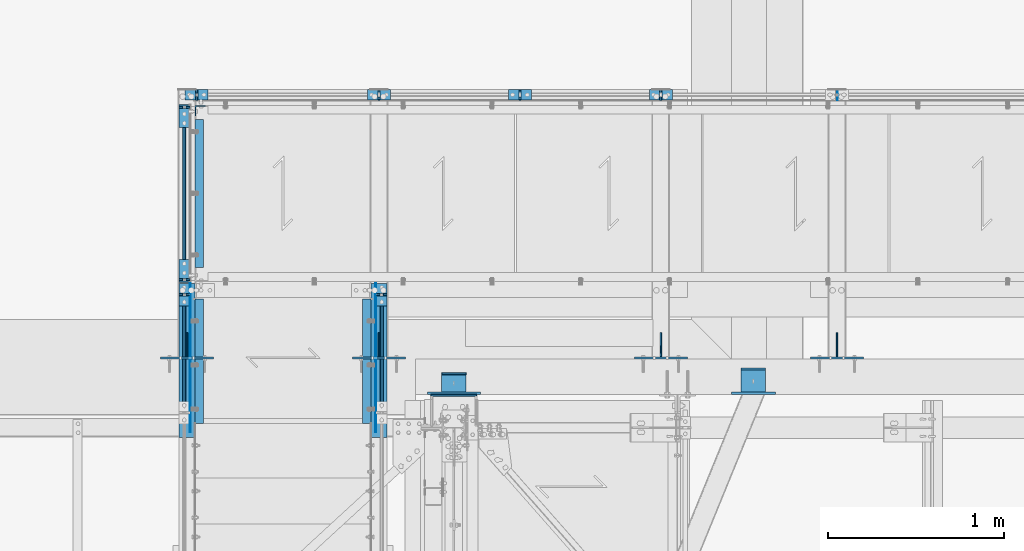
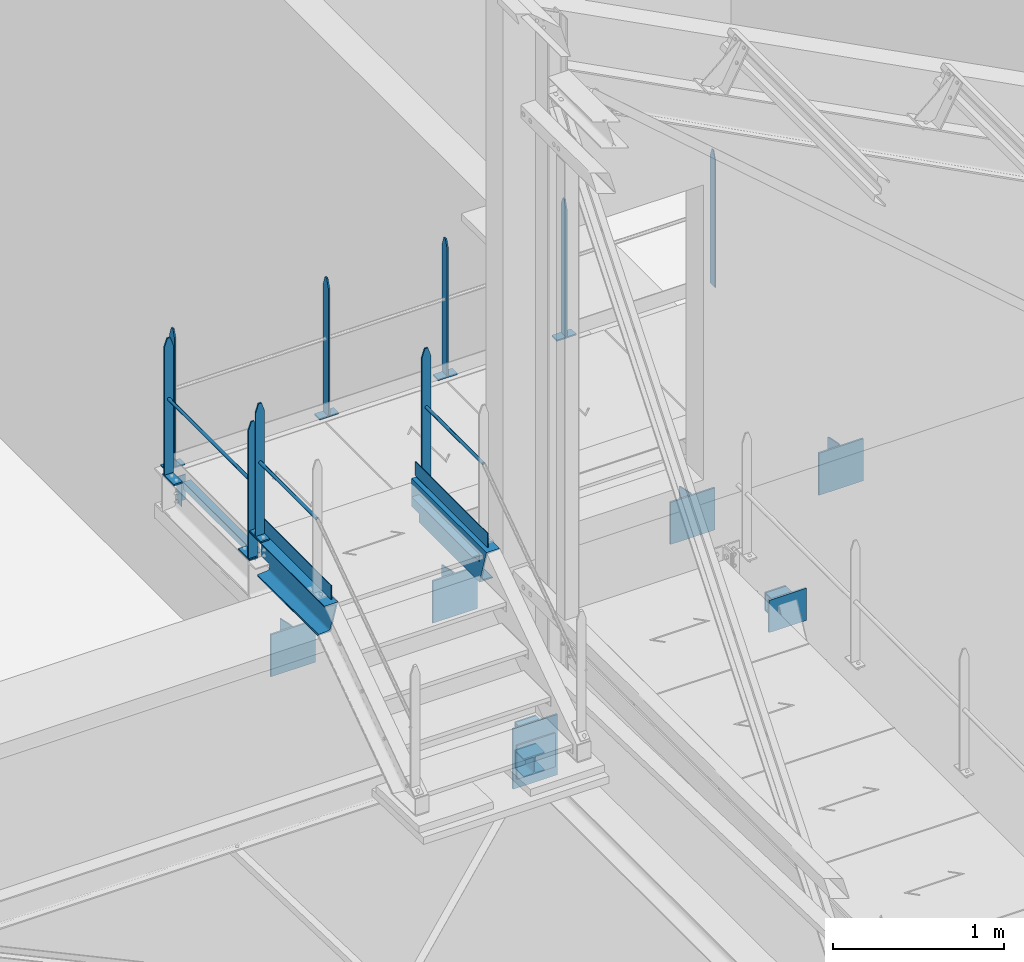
# One storey, part 96 of 362: 45 beams, 18 elements without a shape of their own.
"""IFC2X3 building model written with IfcOpenShell, lengths in millimetres."""

from ifc_helpers import new_model, si_unit, frame, origin_with_axes, origin_2d_with_axis, place, context, subcontext, project, spatial, polyline, rectangle, hollow_circle, i_section, l_section, u_section, outline, extrude, boolean, clip, halfspace, material, type_object, element, aggregate, save


model = new_model("IFC2X3")

# Units and contexts
model_context = context("Model", 3, precision=1e-05, world=origin_with_axes())
body_context = subcontext(model_context, "Body", "Model", "MODEL_VIEW")
ifc_project = project(units=[si_unit("LENGTHUNIT", "METRE", prefix="MILLI"), si_unit("AREAUNIT", "SQUARE_METRE"), si_unit("VOLUMEUNIT", "CUBIC_METRE"), si_unit("MASSUNIT", "GRAM", prefix="KILO"), si_unit("TIMEUNIT", "SECOND"), si_unit("PLANEANGLEUNIT", "RADIAN"), si_unit("SOLIDANGLEUNIT", "STERADIAN"), si_unit("THERMODYNAMICTEMPERATUREUNIT", "DEGREE_CELSIUS"), si_unit("LUMINOUSINTENSITYUNIT", "LUMEN")], contexts=[model_context])

# Site, building, storey
site_placement = place(None, origin_with_axes())
site = spatial("IfcSite", under=ifc_project, at=site_placement, Name="Undefined", CompositionType="ELEMENT")
building_placement = place(site_placement, origin_with_axes())
building = spatial("IfcBuilding", under=site, at=building_placement, Name="Undefined", CompositionType="ELEMENT")
storey_placement = place(building_placement, origin_with_axes())
storey = spatial("IfcBuildingStorey", under=building, at=storey_placement, Name="Undefined", CompositionType="ELEMENT", Elevation=0.0)

# Assembly, beams
assembly_1_placement = place(storey_placement, origin_with_axes())
assembly_1 = element("IfcElementAssembly", 1, at=assembly_1_placement, inside=storey, Name="MAIN COURANTE", AssemblyPlace="NOTDEFINED", PredefinedType="NOTDEFINED")
ifc_material_1 = material(Name="Undefined/S235-E24")
beam_type_1 = type_object("IfcBeamType", Name="PL10*60", PredefinedType="NOTDEFINED")
beam_1_placement = place(assembly_1_placement, frame((13119.9961849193, 17089.9938659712, 8705.00000001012), z_axis=(0.0, 1.0, 0.0), x_axis=(-1.0, 0.0, 0.0)))
beam_1 = element("IfcBeam", 2, at=beam_1_placement, type_object=beam_type_1, material=ifc_material_1, Name="PLATINE", ObjectType="PL10*60", context=body_context, shape_type="SweptSolid", body=[
    extrude(rectangle(XDim=10.0, YDim=60.0, at=origin_2d_with_axis()), frame((130.0, 0.0, 0.0), z_axis=(-1.0, 0.0, 0.0), x_axis=(0.0, -1.0, 0.0)), (0.0, 0.0, 1.0), 130.0),
])
beam_2_placement = place(assembly_1_placement, frame((13054.9961849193, 17089.9938659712, 9677.59999847), z_axis=(0.0, -1.0, 0.0), x_axis=(0.0, 0.0, -1.0)))
beam_2 = element("IfcBeam", 3, at=beam_2_placement, type_object=beam_type_1, material=ifc_material_1, Name="MONTANT", ObjectType="PL10*60", context=body_context, shape_type="Clipping", body=[
    clip(clip(extrude(rectangle(XDim=10.0, YDim=60.0, at=origin_2d_with_axis()), frame((967.59999845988, 0.0, 0.0), z_axis=(-1.0, 0.0, 0.0), x_axis=(0.0, -1.0, 0.0)), (0.0, 0.0, 1.0), 967.6), halfspace(frame((-120.0, 5.0, -30.0), z_axis=(-0.316227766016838, 0.0, 0.948683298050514), x_axis=(0.948683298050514, 0.0, 0.316227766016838)), False)), halfspace(frame((60.0, 5.0, -30.0), z_axis=(-0.316227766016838, 0.0, -0.948683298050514), x_axis=(-0.948683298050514, 0.0, 0.316227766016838)), False)),
])
beam_3_placement = place(assembly_1_placement, frame((13919.9961849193, 17089.9938659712, 8705.00000001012), z_axis=(0.0, 1.0, 0.0), x_axis=(-1.0, 0.0, 0.0)))
beam_3 = element("IfcBeam", 4, at=beam_3_placement, type_object=beam_type_1, material=ifc_material_1, Name="PLATINE", ObjectType="PL10*60", context=body_context, shape_type="SweptSolid", body=[
    extrude(rectangle(XDim=10.0, YDim=60.0, at=origin_2d_with_axis()), frame((130.0, 0.0, 0.0), z_axis=(-1.0, 0.0, 0.0), x_axis=(0.0, -1.0, 0.0)), (0.0, 0.0, 1.0), 130.0),
])
beam_4_placement = place(assembly_1_placement, frame((11285.0061849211, 17089.9938659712, 8705.00001258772), z_axis=(0.0, 1.0, 0.0), x_axis=(-1.0, 0.0, 0.0)))
beam_4 = element("IfcBeam", 5, at=beam_4_placement, type_object=beam_type_1, material=ifc_material_1, Name="PLATINE", ObjectType="PL10*60", context=body_context, shape_type="SweptSolid", body=[
    extrude(rectangle(XDim=10.0, YDim=60.0, at=origin_2d_with_axis()), frame((130.0, 0.0, 0.0), z_axis=(-1.0, 0.0, 0.0), x_axis=(0.0, -1.0, 0.0)), (0.0, 0.0, 1.0), 130.0),
])
beam_5_placement = place(assembly_1_placement, frame((11220.0061849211, 17089.9938659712, 9677.6000110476), z_axis=(0.0, -1.0, 0.0), x_axis=(0.0, 0.0, -1.0)))
beam_5 = element("IfcBeam", 6, at=beam_5_placement, type_object=beam_type_1, material=ifc_material_1, Name="MONTANT", ObjectType="PL10*60", context=body_context, shape_type="Clipping", body=[
    clip(clip(extrude(rectangle(XDim=10.0, YDim=60.0, at=origin_2d_with_axis()), frame((967.59999845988, 0.0, 0.0), z_axis=(-1.0, 0.0, 0.0), x_axis=(0.0, -1.0, 0.0)), (0.0, 0.0, 1.0), 967.6), halfspace(frame((-120.0, 5.0, -30.0), z_axis=(-0.316227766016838, 0.0, 0.948683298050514), x_axis=(0.948683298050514, 0.0, 0.316227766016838)), False)), halfspace(frame((60.0, 5.0, -30.0), z_axis=(-0.316227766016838, 0.0, -0.948683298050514), x_axis=(-0.948683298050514, 0.0, 0.316227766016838)), False)),
])
beam_6_placement = place(assembly_1_placement, frame((12319.9961849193, 17089.9938659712, 8705.00000001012), z_axis=(0.0, 1.0, 0.0), x_axis=(-1.0, 0.0, 0.0)))
beam_6 = element("IfcBeam", 7, at=beam_6_placement, type_object=beam_type_1, material=ifc_material_1, Name="PLATINE", ObjectType="PL10*60", context=body_context, shape_type="SweptSolid", body=[
    extrude(rectangle(XDim=10.0, YDim=60.0, at=origin_2d_with_axis()), frame((130.0, 0.0, 0.0), z_axis=(-1.0, 0.0, 0.0), x_axis=(0.0, -1.0, 0.0)), (0.0, 0.0, 1.0), 130.0),
])

assembly_2_placement = place(storey_placement, origin_with_axes())
assembly_2 = element("IfcElementAssembly", 8, at=assembly_2_placement, inside=storey, Name="MAIN COURANTE", AssemblyPlace="NOTDEFINED", PredefinedType="NOTDEFINED")
beam_7_placement = place(assembly_2_placement, frame((11149.9863365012, 16155.0036560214, 8705.00000001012), z_axis=(-1.0, 0.0, 0.0), x_axis=(0.0, -1.0, 0.0)))
beam_7 = element("IfcBeam", 9, at=beam_7_placement, type_object=beam_type_1, material=ifc_material_1, Name="PLATINE", ObjectType="PL10*60", context=body_context, shape_type="SweptSolid", body=[
    extrude(rectangle(XDim=10.0, YDim=60.0, at=origin_2d_with_axis()), frame((130.0, 0.0, 0.0), z_axis=(-1.0, 0.0, 0.0), x_axis=(0.0, -1.0, 0.0)), (0.0, 0.0, 1.0), 130.0),
])
beam_8_placement = place(assembly_2_placement, frame((11149.9862112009, 16040.0036560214, 9677.59999848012), z_axis=(-0.99999999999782, -2.08799999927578e-06, 0.0), x_axis=(0.0, 0.0, -1.0)))
beam_8 = element("IfcBeam", 10, at=beam_8_placement, type_object=beam_type_1, material=ifc_material_1, Name="MONTANT", ObjectType="PL10*60", context=body_context, shape_type="Clipping", body=[
    clip(clip(extrude(rectangle(XDim=10.0, YDim=60.0, at=origin_2d_with_axis()), frame((967.59999845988, 0.0, 0.0), z_axis=(-1.0, 0.0, 0.0), x_axis=(0.0, -1.0, 0.0)), (0.0, 0.0, 1.0), 967.6), halfspace(frame((-119.999937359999, -4.99999999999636, -30.0), z_axis=(-0.316227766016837, -1.98085072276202e-06, 0.948683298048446), x_axis=(-6.26399999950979e-06, 0.999999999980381, -3.63797880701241e-15)), False)), halfspace(frame((60.0, -5.0, -30.0), z_axis=(-0.316227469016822, 1.98084886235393e-06, -0.948683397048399), x_axis=(6.26399999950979e-06, 0.999999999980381, -3.63797880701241e-15)), False)),
])
beam_9_placement = place(assembly_2_placement, frame((11149.9863365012, 17034.9977309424, 8705.00000001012), z_axis=(-1.0, 0.0, 0.0), x_axis=(0.0, -1.0, 0.0)))
beam_9 = element("IfcBeam", 11, at=beam_9_placement, type_object=beam_type_1, material=ifc_material_1, Name="PLATINE", ObjectType="PL10*60", context=body_context, shape_type="SweptSolid", body=[
    extrude(rectangle(XDim=10.0, YDim=60.0, at=origin_2d_with_axis()), frame((130.0, 0.0, 0.0), z_axis=(-1.0, 0.0, 0.0), x_axis=(0.0, -1.0, 0.0)), (0.0, 0.0, 1.0), 130.0),
])
beam_10_placement = place(assembly_2_placement, frame((11149.9862112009, 17019.9977309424, 9677.59999848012), z_axis=(-0.99999999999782, -2.08799999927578e-06, 0.0), x_axis=(0.0, 0.0, -1.0)))
beam_10 = element("IfcBeam", 12, at=beam_10_placement, type_object=beam_type_1, material=ifc_material_1, Name="MONTANT", ObjectType="PL10*60", context=body_context, shape_type="Clipping", body=[
    clip(clip(extrude(rectangle(XDim=10.0, YDim=60.0, at=origin_2d_with_axis()), frame((967.59999845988, 0.0, 0.0), z_axis=(-1.0, 0.0, 0.0), x_axis=(0.0, -1.0, 0.0)), (0.0, 0.0, 1.0), 967.6), halfspace(frame((-119.999937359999, -4.99999999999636, -30.0), z_axis=(-0.316227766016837, -1.98085072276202e-06, 0.948683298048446), x_axis=(-6.26399999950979e-06, 0.999999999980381, -3.63797880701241e-15)), False)), halfspace(frame((60.0, -5.0, -30.0), z_axis=(-0.316227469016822, 1.98084886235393e-06, -0.948683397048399), x_axis=(6.26399999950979e-06, 0.999999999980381, -3.63797880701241e-15)), False)),
])

# Beam
beam_11_placement = place(assembly_1_placement, frame((13854.9961849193, 17089.9938659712, 9677.59999847), z_axis=(0.0, -1.0, 0.0), x_axis=(0.0, 0.0, -1.0)))
beam_11 = element("IfcBeam", 13, at=beam_11_placement, type_object=beam_type_1, material=ifc_material_1, Name="MONTANT", ObjectType="PL10*60", context=body_context, shape_type="Clipping", body=[
    clip(clip(extrude(rectangle(XDim=10.0, YDim=60.0, at=origin_2d_with_axis()), frame((967.59999845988, 0.0, 0.0), z_axis=(-1.0, 0.0, 0.0), x_axis=(0.0, -1.0, 0.0)), (0.0, 0.0, 1.0), 967.6), halfspace(frame((-120.0, 5.0, -30.0), z_axis=(-0.316227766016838, 0.0, 0.948683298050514), x_axis=(0.948683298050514, 0.0, 0.316227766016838)), False)), halfspace(frame((60.0, 5.0, -30.0), z_axis=(-0.316227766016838, 0.0, -0.948683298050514), x_axis=(-0.948683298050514, 0.0, 0.316227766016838)), False)),
])

beam_12_placement = place(assembly_1_placement, frame((12254.9961849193, 17089.9938659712, 9677.59999847), z_axis=(0.0, -1.0, 0.0), x_axis=(0.0, 0.0, -1.0)))
beam_12 = element("IfcBeam", 14, at=beam_12_placement, type_object=beam_type_1, material=ifc_material_1, Name="MONTANT", ObjectType="PL10*60", context=body_context, shape_type="Clipping", body=[
    clip(clip(extrude(rectangle(XDim=10.0, YDim=60.0, at=origin_2d_with_axis()), frame((967.59999845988, 0.0, 0.0), z_axis=(-1.0, 0.0, 0.0), x_axis=(0.0, -1.0, 0.0)), (0.0, 0.0, 1.0), 967.6), halfspace(frame((-120.0, 5.0, -30.0), z_axis=(-0.316227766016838, 0.0, 0.948683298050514), x_axis=(0.948683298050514, 0.0, 0.316227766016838)), False)), halfspace(frame((60.0, 5.0, -30.0), z_axis=(-0.316227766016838, 0.0, -0.948683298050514), x_axis=(-0.948683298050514, 0.0, 0.316227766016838)), False)),
])

aggregate(assembly_1, [beam_1, beam_2, beam_3, beam_4, beam_5, beam_6, beam_11, beam_12])

# Assembly, beams
assembly_3_placement = place(storey_placement, origin_with_axes())
assembly_3 = element("IfcElementAssembly", 15, at=assembly_3_placement, inside=storey, Name="MAIN COURANTE", AssemblyPlace="NOTDEFINED", PredefinedType="NOTDEFINED")
beam_13_placement = place(assembly_3_placement, frame((11149.9863365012, 16019.9996531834, 8915.0), z_axis=(-1.0, 0.0, 0.0), x_axis=(0.0, -1.0, 0.0)))
beam_13 = element("IfcBeam", 16, at=beam_13_placement, type_object=beam_type_1, material=ifc_material_1, Name="PLATINE", ObjectType="PL10*60", context=body_context, shape_type="SweptSolid", body=[
    extrude(rectangle(XDim=10.0, YDim=60.0, at=origin_2d_with_axis()), frame((130.0, 0.0, 0.0), z_axis=(-1.0, 0.0, 0.0), x_axis=(0.0, -1.0, 0.0)), (0.0, 0.0, 1.0), 130.0),
])
beam_14_placement = place(assembly_3_placement, frame((11149.9862112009, 15954.9996531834, 9857.59999847), z_axis=(-0.99999999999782, -2.08799999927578e-06, 0.0), x_axis=(0.0, 0.0, -1.0)))
beam_14 = element("IfcBeam", 17, at=beam_14_placement, type_object=beam_type_1, material=ifc_material_1, Name="MONTANT", ObjectType="PL10*60", context=body_context, shape_type="Clipping", body=[
    clip(clip(extrude(rectangle(XDim=10.0, YDim=60.0, at=origin_2d_with_axis()), frame((937.599998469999, 0.0, 0.0), z_axis=(-1.0, 0.0, 0.0), x_axis=(0.0, -1.0, 0.0)), (0.0, 0.0, 1.0), 937.6), halfspace(frame((-119.999937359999, -4.99999999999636, -30.0), z_axis=(-0.316227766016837, -1.98085072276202e-06, 0.948683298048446), x_axis=(-6.26399999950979e-06, 0.999999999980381, -3.63797880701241e-15)), False)), halfspace(frame((60.0, -5.0, -30.0), z_axis=(-0.316227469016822, 1.98084886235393e-06, -0.948683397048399), x_axis=(6.26399999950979e-06, 0.999999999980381, -3.63797880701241e-15)), False)),
])

assembly_4_placement = place(storey_placement, origin_with_axes())
assembly_4 = element("IfcElementAssembly", 18, at=assembly_4_placement, inside=storey, Name="MAIN COURANTE", AssemblyPlace="NOTDEFINED", PredefinedType="NOTDEFINED")
beam_15_placement = place(assembly_4_placement, frame((12269.9936634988, 16019.9996531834, 8915.0), z_axis=(1.0, 0.0, 0.0), x_axis=(0.0, -1.0, 0.0)))
beam_15 = element("IfcBeam", 19, at=beam_15_placement, type_object=beam_type_1, material=ifc_material_1, Name="PLATINE", ObjectType="PL10*60", context=body_context, shape_type="SweptSolid", body=[
    extrude(rectangle(XDim=10.0, YDim=60.0, at=origin_2d_with_axis()), frame((130.0, 0.0, 0.0), z_axis=(-1.0, 0.0, 0.0), x_axis=(0.0, -1.0, 0.0)), (0.0, 0.0, 1.0), 130.0),
])
beam_16_placement = place(assembly_4_placement, frame((12269.9937887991, 15954.9996531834, 9857.59999847), z_axis=(0.999999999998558, -1.69800000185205e-06, 0.0), x_axis=(0.0, 0.0, -1.0)))
beam_16 = element("IfcBeam", 20, at=beam_16_placement, type_object=beam_type_1, material=ifc_material_1, Name="MONTANT", ObjectType="PL10*60", context=body_context, shape_type="Clipping", body=[
    clip(clip(extrude(rectangle(XDim=10.0, YDim=60.0, at=origin_2d_with_axis()), frame((937.599998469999, 0.0, 0.0), z_axis=(-1.0, 0.0, 0.0), x_axis=(0.0, -1.0, 0.0)), (0.0, 0.0, 1.0), 937.6), halfspace(frame((-119.999937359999, 4.99999999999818, -30.0), z_axis=(-0.316227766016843, 1.98085072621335e-06, 0.948683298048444), x_axis=(0.948683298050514, 0.0, 0.316227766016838)), False)), halfspace(frame((60.0, 5.0, -30.0), z_axis=(-0.316227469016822, -1.98084886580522e-06, -0.948683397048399), x_axis=(-0.948683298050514, 0.0, 0.316227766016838)), False)),
])
beam_type_2 = type_object("IfcBeamType", Name="TUBE-21.3*2", PredefinedType="NOTDEFINED")
beam_17_placement = place(assembly_4_placement, frame((12269.9936634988, 15290.0038659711, 9438.8), z_axis=(0.999999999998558, -1.69800000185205e-06, 0.0), x_axis=(1.69800000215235e-06, 0.999999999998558, 0.0)))
beam_17 = element("IfcBeam", 21, at=beam_17_placement, type_object=beam_type_2, material=ifc_material_1, Name="LISSE", ObjectType="TUBE-21.3*2", context=body_context, shape_type="SweptSolid", body=[
    extrude(hollow_circle(Radius=10.64999962, WallThickness=2.0, at=origin_2d_with_axis()), frame((659.995802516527, 1.81898940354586e-12, -1.3975954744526e-19), z_axis=(-1.0, 0.0, 0.0), x_axis=(0.0, -1.0, 0.0)), (0.0, 0.0, 1.0), 660.0),
])

# Beam
beam_18_placement = place(assembly_2_placement, frame((11149.9863365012, 16045.0036560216, 9243.80000001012), z_axis=(-0.99999999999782, -2.08799999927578e-06, 0.0), x_axis=(-1.15500000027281e-06, 0.999999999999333, 0.0)))
beam_18 = element("IfcBeam", 22, at=beam_18_placement, type_object=beam_type_2, material=ifc_material_1, Name="LISSE", ObjectType="TUBE-21.3*2", context=body_context, shape_type="SweptSolid", body=[
    extrude(hollow_circle(Radius=10.64999962, WallThickness=2.0, at=origin_2d_with_axis()), frame((969.994074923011, -1.81898940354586e-12, 0.0), z_axis=(-1.0, 0.0, 0.0), x_axis=(0.0, -1.0, 0.0)), (0.0, 0.0, 1.0), 969.99),
])

aggregate(assembly_2, [beam_7, beam_8, beam_18, beam_9, beam_10])

beam_19_placement = place(assembly_3_placement, frame((11149.9863365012, 15290.0038659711, 9438.8), z_axis=(-0.99999999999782, -2.08799999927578e-06, 0.0), x_axis=(-1.15500000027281e-06, 0.999999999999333, 0.0)))
beam_19 = element("IfcBeam", 23, at=beam_19_placement, type_object=beam_type_2, material=ifc_material_1, Name="LISSE", ObjectType="TUBE-21.3*2", context=body_context, shape_type="SweptSolid", body=[
    extrude(hollow_circle(Radius=10.64999962, WallThickness=2.0, at=origin_2d_with_axis()), frame((659.996492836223, -1.81898940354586e-12, 0.0), z_axis=(-1.0, 0.0, 0.0), x_axis=(0.0, -1.0, 0.0)), (0.0, 0.0, 1.0), 660.0),
])

# Assembly, beam
assembly_5_placement = place(storey_placement, origin_with_axes())
assembly_5 = element("IfcElementAssembly", 24, at=assembly_5_placement, inside=storey, Name="CONSOLE", AssemblyPlace="NOTDEFINED", PredefinedType="NOTDEFINED")
beam_type_3 = type_object("IfcBeamType", Name="TOLE8*138", PredefinedType="NOTDEFINED")
beam_20_placement = place(assembly_5_placement, frame((12255.0007605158, 15622.0, 8175.0), z_axis=(-1.0, 0.0, 0.0), x_axis=(0.0, -1.0, 0.0)))
beam_20 = element("IfcBeam", 25, at=beam_20_placement, type_object=beam_type_3, material=ifc_material_1, Name="RAIDISSEUR CONSOLE", ObjectType="TOLE8*138", context=body_context, shape_type="SweptSolid", body=[
    extrude(outline(polyline([(0.0, 0.0), (19.9999999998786, -3.63797880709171e-12), (20.0, 300.0), (0.0, 300.0), (-118.0, 275.0), (-118.0, 155.0), (0.0, 0.0)])), frame((0.0, 0.0, -4.0), z_axis=(0.0, 0.0, 1.0), x_axis=(1.0, 0.0, 0.0)), (0.0, 0.0, 1.0), 8.0),
])

assembly_6_placement = place(storey_placement, origin_with_axes())
assembly_6 = element("IfcElementAssembly", 26, at=assembly_6_placement, inside=storey, Name="CONSOLE", AssemblyPlace="NOTDEFINED", PredefinedType="NOTDEFINED")
beam_21_placement = place(assembly_6_placement, frame((14855.0007605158, 15622.0, 8175.0), z_axis=(-1.0, 0.0, 0.0), x_axis=(0.0, -1.0, 0.0)))
beam_21 = element("IfcBeam", 27, at=beam_21_placement, type_object=beam_type_3, material=ifc_material_1, Name="RAIDISSEUR CONSOLE", ObjectType="TOLE8*138", context=body_context, shape_type="SweptSolid", body=[
    extrude(outline(polyline([(0.0, 0.0), (19.9999999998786, -3.63797880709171e-12), (20.0, 300.0), (0.0, 300.0), (-118.0, 275.0), (-118.0, 155.0), (0.0, 0.0)])), frame((0.0, 0.0, -4.0), z_axis=(0.0, 0.0, 1.0), x_axis=(1.0, 0.0, 0.0)), (0.0, 0.0, 1.0), 8.0),
])

assembly_7_placement = place(storey_placement, origin_with_axes())
assembly_7 = element("IfcElementAssembly", 28, at=assembly_7_placement, inside=storey, Name="CONSOLE", AssemblyPlace="NOTDEFINED", PredefinedType="NOTDEFINED")
beam_22_placement = place(assembly_7_placement, frame((13855.0007605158, 15622.0, 8175.0), z_axis=(-1.0, 0.0, 0.0), x_axis=(0.0, -1.0, 0.0)))
beam_22 = element("IfcBeam", 29, at=beam_22_placement, type_object=beam_type_3, material=ifc_material_1, Name="RAIDISSEUR CONSOLE", ObjectType="TOLE8*138", context=body_context, shape_type="SweptSolid", body=[
    extrude(outline(polyline([(0.0, 0.0), (19.9999999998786, -3.63797880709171e-12), (20.0, 300.0), (0.0, 300.0), (-118.0, 275.0), (-118.0, 155.0), (0.0, 0.0)])), frame((0.0, 0.0, -4.0), z_axis=(0.0, 0.0, 1.0), x_axis=(1.0, 0.0, 0.0)), (0.0, 0.0, 1.0), 8.0),
])

assembly_8_placement = place(storey_placement, origin_with_axes())
assembly_8 = element("IfcElementAssembly", 30, at=assembly_8_placement, inside=storey, Name="CONSOLE", AssemblyPlace="NOTDEFINED", PredefinedType="NOTDEFINED")
beam_23_placement = place(assembly_8_placement, frame((11165.0007605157, 15622.0, 8175.0), z_axis=(-1.0, 0.0, 0.0), x_axis=(0.0, -1.0, 0.0)))
beam_23 = element("IfcBeam", 31, at=beam_23_placement, type_object=beam_type_3, material=ifc_material_1, Name="RAIDISSEUR CONSOLE", ObjectType="TOLE8*138", context=body_context, shape_type="SweptSolid", body=[
    extrude(outline(polyline([(0.0, 0.0), (19.9999999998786, -3.63797880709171e-12), (20.0, 300.0), (0.0, 300.0), (-118.0, 275.0), (-118.0, 155.0), (0.0, 0.0)])), frame((0.0, 0.0, -4.0), z_axis=(0.0, 0.0, 1.0), x_axis=(1.0, 0.0, 0.0)), (0.0, 0.0, 1.0), 8.0),
])

# Beam
beam_type_4 = type_object("IfcBeamType", Name="PL12*300", PredefinedType="NOTDEFINED")
beam_24_placement = place(assembly_5_placement, frame((12255.0007605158, 15595.99984642, 8475.0), z_axis=(1.0, 0.0, 0.0), x_axis=(0.0, 0.0, -1.0)))
beam_24 = element("IfcBeam", 32, at=beam_24_placement, type_object=beam_type_4, material=ifc_material_1, Name="PLATINE CONSOLE", ObjectType="PL12*300", context=body_context, shape_type="SweptSolid", body=[
    extrude(rectangle(XDim=12.0, YDim=300.0, at=origin_2d_with_axis()), frame((300.0, 0.0, 0.0), z_axis=(-1.0, 0.0, 0.0), x_axis=(0.0, -1.0, 0.0)), (0.0, 0.0, 1.0), 300.0),
])

aggregate(assembly_5, [beam_20, beam_24])

beam_25_placement = place(assembly_6_placement, frame((14855.0007605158, 15595.99984642, 8475.0), z_axis=(1.0, 0.0, 0.0), x_axis=(0.0, 0.0, -1.0)))
beam_25 = element("IfcBeam", 33, at=beam_25_placement, type_object=beam_type_4, material=ifc_material_1, Name="PLATINE CONSOLE", ObjectType="PL12*300", context=body_context, shape_type="SweptSolid", body=[
    extrude(rectangle(XDim=12.0, YDim=300.0, at=origin_2d_with_axis()), frame((300.0, 0.0, 0.0), z_axis=(-1.0, 0.0, 0.0), x_axis=(0.0, -1.0, 0.0)), (0.0, 0.0, 1.0), 300.0),
])

aggregate(assembly_6, [beam_21, beam_25])

beam_26_placement = place(assembly_7_placement, frame((13855.0007605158, 15595.99984642, 8475.0), z_axis=(1.0, 0.0, 0.0), x_axis=(0.0, 0.0, -1.0)))
beam_26 = element("IfcBeam", 34, at=beam_26_placement, type_object=beam_type_4, material=ifc_material_1, Name="PLATINE CONSOLE", ObjectType="PL12*300", context=body_context, shape_type="SweptSolid", body=[
    extrude(rectangle(XDim=12.0, YDim=300.0, at=origin_2d_with_axis()), frame((300.0, 0.0, 0.0), z_axis=(-1.0, 0.0, 0.0), x_axis=(0.0, -1.0, 0.0)), (0.0, 0.0, 1.0), 300.0),
])

aggregate(assembly_7, [beam_22, beam_26])

beam_27_placement = place(assembly_8_placement, frame((11165.0007605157, 15596.0, 8475.0), z_axis=(1.0, 0.0, 0.0), x_axis=(0.0, 0.0, -1.0)))
beam_27 = element("IfcBeam", 35, at=beam_27_placement, type_object=beam_type_4, material=ifc_material_1, Name="PLATINE CONSOLE", ObjectType="PL12*300", context=body_context, shape_type="SweptSolid", body=[
    extrude(rectangle(XDim=12.0, YDim=300.0, at=origin_2d_with_axis()), frame((300.0, 0.0, 0.0), z_axis=(-1.0, 0.0, 0.0), x_axis=(0.0, -1.0, 0.0)), (0.0, 0.0, 1.0), 300.0),
])

aggregate(assembly_8, [beam_23, beam_27])

# Assembly, beam
assembly_9_placement = place(storey_placement, origin_with_axes())
assembly_9 = element("IfcElementAssembly", 36, at=assembly_9_placement, inside=storey, AssemblyPlace="NOTDEFINED", PredefinedType="NOTDEFINED")
beam_28_placement = place(assembly_9_placement, frame((12680.0000000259, 15395.9999998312, 7394.99830350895), z_axis=(-1.0, 0.0, 0.0), x_axis=(0.0, 0.0, -1.0)))
beam_28 = element("IfcBeam", 37, at=beam_28_placement, type_object=beam_type_4, material=ifc_material_1, Name="PRESCELLEMENT", ObjectType="PL12*300", context=body_context, shape_type="SweptSolid", body=[
    extrude(rectangle(XDim=12.0, YDim=300.0, at=origin_2d_with_axis()), frame((429.999999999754, 0.0, 0.0), z_axis=(-1.0, 0.0, 0.0), x_axis=(0.0, -1.0, 0.0)), (0.0, 0.0, 1.0), 430.0),
])

# Beam
beam_type_5 = type_object("IfcBeamType", Name="PL100*5", PredefinedType="NOTDEFINED")
beam_29_placement = place(assembly_3_placement, frame((11182.4987221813, 16020.0003588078, 8970.0), z_axis=(0.0, 0.0, -1.0), x_axis=(0.0, -1.0, 0.0)))
beam_29 = element("IfcBeam", 38, at=beam_29_placement, type_object=beam_type_5, material=ifc_material_1, Name="PLINTHE", ObjectType="PL100*5", context=body_context, shape_type="SweptSolid", body=[
    extrude(rectangle(XDim=5.0, YDim=100.0, at=origin_2d_with_axis()), frame((845.000567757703, 0.0, 0.0), z_axis=(-1.0, 0.0, 0.0), x_axis=(0.0, -1.0, 0.0)), (0.0, 0.0, 1.0), 845.0),
])

aggregate(assembly_3, [beam_19, beam_29, beam_13, beam_14])

beam_30_placement = place(assembly_4_placement, frame((12237.4812778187, 16019.9996531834, 8970.0), z_axis=(0.0, 0.0, -1.0), x_axis=(0.0, -1.0, 0.0)))
beam_30 = element("IfcBeam", 39, at=beam_30_placement, type_object=beam_type_5, material=ifc_material_1, Name="PLINTHE", ObjectType="PL100*5", context=body_context, shape_type="SweptSolid", body=[
    extrude(rectangle(XDim=5.0, YDim=100.0, at=origin_2d_with_axis()), frame((844.999862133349, 0.0, 0.0), z_axis=(-1.0, 0.0, 0.0), x_axis=(0.0, -1.0, 0.0)), (0.0, 0.0, 1.0), 845.0),
])

aggregate(assembly_4, [beam_17, beam_30, beam_15, beam_16])

# Assembly, beam
assembly_10_placement = place(storey_placement, origin_with_axes())
assembly_10 = element("IfcElementAssembly", 40, at=assembly_10_placement, inside=storey, Name="MAIN COURANTE", AssemblyPlace="NOTDEFINED", PredefinedType="NOTDEFINED")
beam_type_6 = type_object("IfcBeamType", Name="PL5*60", PredefinedType="NOTDEFINED")
beam_31_placement = place(assembly_10_placement, frame((14857.4961849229, 17089.9938659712, 9677.59999847), z_axis=(0.0, -1.0, 0.0), x_axis=(0.0, 0.0, -1.0)))
beam_31 = element("IfcBeam", 41, at=beam_31_placement, type_object=beam_type_6, material=ifc_material_1, Name="MONTANT", ObjectType="PL5*60", context=body_context, shape_type="Clipping", body=[
    clip(clip(extrude(rectangle(XDim=5.0, YDim=60.0, at=origin_2d_with_axis()), frame((967.59999845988, 0.0, 0.0), z_axis=(-1.0, 0.0, 0.0), x_axis=(0.0, -1.0, 0.0)), (0.0, 0.0, 1.0), 967.6), halfspace(frame((-120.0, -5.0, -30.0), z_axis=(-0.316227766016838, 0.0, 0.948683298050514), x_axis=(0.0, 1.0, 0.0)), False)), halfspace(frame((60.0, -5.0, -30.0), z_axis=(-0.316227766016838, 0.0, -0.948683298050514), x_axis=(0.0, 1.0, 0.0)), False)),
])
aggregate(assembly_10, [beam_31])

assembly_11_placement = place(storey_placement, origin_with_axes())
assembly_11 = element("IfcElementAssembly", 42, at=assembly_11_placement, inside=storey, Name="SUPPORT", AssemblyPlace="NOTDEFINED", PredefinedType="NOTDEFINED")
beam_type_7 = type_object("IfcBeamType", Name="L50*5", PredefinedType="NOTDEFINED")
beam_32_placement = place(assembly_11_placement, frame((12184.9814327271, 15930.0058468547, 8825.0), z_axis=(-1.0, 0.0, 0.0), x_axis=(0.0, -1.0, 0.0)))
beam_32 = element("IfcBeam", 43, at=beam_32_placement, type_object=beam_type_7, material=ifc_material_1, Name="SUPPORT", ObjectType="L50*5", context=body_context, shape_type="SweptSolid", body=[
    extrude(l_section(Depth=50.0, Width=50.0, Thickness=5.0, FilletRadius=7.0, EdgeRadius=3.5, at=origin_2d_with_axis()), frame((704.999999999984, 0.0, 0.0), z_axis=(-1.0, 0.0, 0.0), x_axis=(0.0, -1.0, 0.0)), (0.0, 0.0, 1.0), 705.0),
])
aggregate(assembly_11, [beam_32])

assembly_12_placement = place(storey_placement, origin_with_axes())
assembly_12 = element("IfcElementAssembly", 44, at=assembly_12_placement, inside=storey, Name="SUPPORT", AssemblyPlace="NOTDEFINED", PredefinedType="NOTDEFINED")
beam_33_placement = place(assembly_12_placement, frame((11235.0061849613, 15225.0058468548, 8825.0), z_axis=(1.0, 0.0, 0.0), x_axis=(0.0, 1.0, 0.0)))
beam_33 = element("IfcBeam", 45, at=beam_33_placement, type_object=beam_type_7, material=ifc_material_1, Name="SUPPORT", ObjectType="L50*5", context=body_context, shape_type="SweptSolid", body=[
    extrude(l_section(Depth=50.0, Width=50.0, Thickness=5.0, FilletRadius=7.0, EdgeRadius=3.5, at=origin_2d_with_axis()), frame((704.999999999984, 0.0, 0.0), z_axis=(-1.0, 0.0, 0.0), x_axis=(0.0, -1.0, 0.0)), (0.0, 0.0, 1.0), 705.0),
])
aggregate(assembly_12, [beam_33])

assembly_13_placement = place(storey_placement, origin_with_axes())
assembly_13 = element("IfcElementAssembly", 46, at=assembly_13_placement, inside=storey, Name="SUPPORT", AssemblyPlace="NOTDEFINED", PredefinedType="NOTDEFINED")
beam_34_placement = place(assembly_13_placement, frame((11235.0061849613, 16109.9935804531, 8645.0), z_axis=(1.0, 0.0, 0.0), x_axis=(0.0, 1.0, 0.0)))
beam_34 = element("IfcBeam", 47, at=beam_34_placement, type_object=beam_type_7, material=ifc_material_1, Name="SUPPORT", ObjectType="L50*5", context=body_context, shape_type="SweptSolid", body=[
    extrude(l_section(Depth=50.0, Width=50.0, Thickness=5.0, FilletRadius=7.0, EdgeRadius=3.5, at=origin_2d_with_axis()), frame((839.999999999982, 0.0, 0.0), z_axis=(-1.0, 0.0, 0.0), x_axis=(0.0, -1.0, 0.0)), (0.0, 0.0, 1.0), 840.0),
])
aggregate(assembly_13, [beam_34])

assembly_14_placement = place(storey_placement, origin_with_axes())
assembly_14 = element("IfcElementAssembly", 48, at=assembly_14_placement, inside=storey, AssemblyPlace="NOTDEFINED", PredefinedType="NOTDEFINED")
ifc_material_2 = material(Name="Undefined/S275-E28")
beam_type_8 = type_object("IfcBeamType", Name="UPN260", PredefinedType="NOTDEFINED")
beam_35_placement = place(assembly_14_placement, frame((12255.0056513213, 16019.9995078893, 8780.0), z_axis=(0.0, 0.0, -1.0), x_axis=(-1.83600000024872e-06, -0.999999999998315, 0.0)))
beam_35 = element("IfcBeam", 49, at=beam_35_placement, type_object=beam_type_8, material=ifc_material_2, Name="LIMON", ObjectType="UPN260", context=body_context, shape_type="CSG", body=[
    boolean("DIFFERENCE", boolean("DIFFERENCE", extrude(u_section(Depth=260.0, FlangeWidth=90.0, WebThickness=10.0, FlangeThickness=14.0, FilletRadius=14.0, EdgeRadius=7.0, FlangeSlope=0.0798299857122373, at=origin_2d_with_axis()), frame((874.294945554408, 0.0, 1.81898940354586e-12), z_axis=(-1.0, 0.0, 0.0), x_axis=(0.0, -1.0, 0.0)), (0.0, 0.0, 1.0), 874.29), extrude(outline(polyline([(0.0, 0.0), (90.0001678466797, 0.0), (90.0001678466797, 100.0), (0.0, 100.0), (0.0, 0.0)])), frame((89.9958157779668, -47.9984209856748, 160.000000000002), z_axis=(1.69800000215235e-06, 0.999999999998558, 0.0), x_axis=(0.0, 0.0, -1.0)), (0.0, 0.0, 1.0), 96.0)), halfspace(frame((792.671722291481, 545.010387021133, 130.000000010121), z_axis=(0.954513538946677, -1.75248685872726e-06, 0.29816757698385), x_axis=(1.69800000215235e-06, 0.999999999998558, 0.0)), False)),
])
aggregate(assembly_14, [beam_35])

assembly_15_placement = place(storey_placement, origin_with_axes())
assembly_15 = element("IfcElementAssembly", 50, at=assembly_15_placement, inside=storey, AssemblyPlace="NOTDEFINED", PredefinedType="NOTDEFINED")
beam_36_placement = place(assembly_15_placement, frame((11165.0039852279, 15146.1108193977, 8779.99999998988), z_axis=(0.0, 0.0, -1.0), x_axis=(-1.15500000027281e-06, 0.999999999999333, 0.0)))
beam_36 = element("IfcBeam", 51, at=beam_36_placement, type_object=beam_type_8, material=ifc_material_2, Name="LIMON", ObjectType="UPN260", context=body_context, shape_type="CSG", body=[
    boolean("DIFFERENCE", boolean("DIFFERENCE", extrude(u_section(Depth=260.0, FlangeWidth=90.0, WebThickness=10.0, FlangeThickness=14.0, FilletRadius=14.0, EdgeRadius=7.0, FlangeSlope=0.0798299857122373, at=origin_2d_with_axis()), frame((873.889394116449, -1.85053277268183e-19, 1.81898940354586e-12), z_axis=(-1.0, 0.0, 0.0), x_axis=(0.0, -1.0, 0.0)), (0.0, 0.0, 1.0), 874.3), extrude(outline(polyline([(0.0, 0.0), (90.0001678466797, 0.0), (90.0001678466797, 100.0), (0.0, 100.0), (0.0, 0.0)])), frame((783.892696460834, 48.0006366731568, 159.999999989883), z_axis=(1.83599999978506e-06, -0.999999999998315, 0.0), x_axis=(0.0, 0.0, -1.0)), (0.0, 0.0, 1.0), 96.0)), halfspace(frame((-0.000917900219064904, 544.989823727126, -130.000000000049), z_axis=(0.954513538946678, 1.75248685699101e-06, -0.298167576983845), x_axis=(1.83599999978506e-06, -0.999999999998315, 0.0)), True)),
])
aggregate(assembly_15, [beam_36])

assembly_16_placement = place(storey_placement, origin_with_axes())
assembly_16 = element("IfcElementAssembly", 52, at=assembly_16_placement, inside=storey, AssemblyPlace="NOTDEFINED", PredefinedType="NOTDEFINED")
beam_type_9 = type_object("IfcBeamType", Name="L60*6", PredefinedType="NOTDEFINED")
beam_37_placement = place(assembly_16_placement, frame((11240.0061851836, 16999.9935807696, 8660.0), z_axis=(1.0, 0.0, 0.0), x_axis=(0.0, 0.0, -1.0)))
beam_37 = element("IfcBeam", 53, at=beam_37_placement, type_object=beam_type_9, material=ifc_material_1, Name="ATTACHE", ObjectType="L60*6", context=body_context, shape_type="SweptSolid", body=[
    extrude(l_section(Depth=60.0, Width=60.0, Thickness=6.0, FilletRadius=8.0, EdgeRadius=4.0, at=origin_2d_with_axis()), frame((180.0, 0.0, 0.0), z_axis=(-1.0, 0.0, 0.0), x_axis=(0.0, -1.0, 0.0)), (0.0, 0.0, 1.0), 180.0),
])
aggregate(assembly_16, [beam_37])

# Beam
beam_type_10 = type_object("IfcBeamType", Name="PL10*140", PredefinedType="NOTDEFINED")
beam_38_placement = place(assembly_9_placement, frame((12680.0000000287, 15506.9999999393, 7146.49830350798), z_axis=(-1.0, 0.0, 0.0), x_axis=(0.0, 0.0, -1.0)))
beam_38 = element("IfcBeam", 54, at=beam_38_placement, type_object=beam_type_10, material=ifc_material_1, Name="PLAT", ObjectType="PL10*140", context=body_context, shape_type="SweptSolid", body=[
    extrude(rectangle(XDim=10.0, YDim=140.0, at=origin_2d_with_axis()), frame((132.999999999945, 0.0, 0.0), z_axis=(-1.0, 0.0, 0.0), x_axis=(0.0, -1.0, 0.0)), (0.0, 0.0, 1.0), 133.0),
])

beam_39_placement = place(assembly_9_placement, frame((12680.0000000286, 15506.9999999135, 7346.49830350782), z_axis=(-1.0, 0.0, 0.0), x_axis=(0.0, 0.0, -1.0)))
beam_39 = element("IfcBeam", 55, at=beam_39_placement, type_object=beam_type_10, material=ifc_material_1, Name="PLAT", ObjectType="PL10*140", context=body_context, shape_type="SweptSolid", body=[
    extrude(rectangle(XDim=10.0, YDim=140.0, at=origin_2d_with_axis()), frame((132.999999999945, 0.0, 0.0), z_axis=(-1.0, 0.0, 0.0), x_axis=(0.0, -1.0, 0.0)), (0.0, 0.0, 1.0), 133.0),
])

# Assembly, beam
assembly_17_placement = place(storey_placement, origin_with_axes())
assembly_17 = element("IfcElementAssembly", 56, at=assembly_17_placement, inside=storey, AssemblyPlace="NOTDEFINED", PredefinedType="NOTDEFINED")
beam_type_11 = type_object("IfcBeamType", Name="HEA140", PredefinedType="NOTDEFINED")
beam_40_placement = place(assembly_17_placement, frame((14380.0000018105, 15401.9999999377, 7591.7), z_axis=(0.0, 0.0, 1.0), x_axis=(0.0, 1.0, 0.0)))
beam_40 = element("IfcBeam", 57, at=beam_40_placement, type_object=beam_type_11, material=ifc_material_2, Name="BECHE", ObjectType="HEA140", context=body_context, shape_type="SweptSolid", body=[
    extrude(i_section(OverallWidth=140.0, OverallDepth=133.0, WebThickness=5.5, FlangeThickness=8.5, FilletRadius=12.0, at=origin_2d_with_axis()), frame((124.999999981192, 0.0, 0.0), z_axis=(-1.0, 0.0, 0.0), x_axis=(0.0, -1.0, 0.0)), (0.0, 0.0, 1.0), 125.0),
])

# Beam
beam_41_placement = place(assembly_9_placement, frame((12680.0000000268, 15401.9999999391, 7079.99830350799), z_axis=(0.0, 0.0, 1.0), x_axis=(0.0, 1.0, 0.0)))
beam_41 = element("IfcBeam", 58, at=beam_41_placement, type_object=beam_type_11, material=ifc_material_2, Name="BECHE", ObjectType="HEA140", context=body_context, shape_type="SweptSolid", body=[
    extrude(i_section(OverallWidth=140.0, OverallDepth=133.0, WebThickness=5.5, FlangeThickness=8.5, FilletRadius=12.0, at=origin_2d_with_axis()), frame((99.9999999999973, -1.63709046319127e-11, 7.73070496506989e-12), z_axis=(-1.0, 0.0, 0.0), x_axis=(0.0, -1.0, 0.0)), (0.0, 0.0, 1.0), 100.0),
])

beam_42_placement = place(assembly_9_placement, frame((12680.0000000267, 15401.9999999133, 7279.99830350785), z_axis=(0.0, 0.0, 1.0), x_axis=(0.0, 1.0, 0.0)))
beam_42 = element("IfcBeam", 59, at=beam_42_placement, type_object=beam_type_11, material=ifc_material_2, Name="BECHE", ObjectType="HEA140", context=body_context, shape_type="SweptSolid", body=[
    extrude(i_section(OverallWidth=140.0, OverallDepth=133.0, WebThickness=5.5, FlangeThickness=8.5, FilletRadius=12.0, at=origin_2d_with_axis()), frame((99.9999999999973, -1.63709046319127e-11, 7.73070496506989e-12), z_axis=(-1.0, 0.0, 0.0), x_axis=(0.0, -1.0, 0.0)), (0.0, 0.0, 1.0), 100.0),
])

aggregate(assembly_9, [beam_38, beam_41, beam_39, beam_42, beam_28])

# Assembly, beam
assembly_18_placement = place(storey_placement, origin_with_axes())
assembly_18 = element("IfcElementAssembly", 60, at=assembly_18_placement, inside=storey, AssemblyPlace="NOTDEFINED", PredefinedType="NOTDEFINED")
beam_type_12 = type_object("IfcBeamType", Name="PL10*260", PredefinedType="NOTDEFINED")
beam_43_placement = place(assembly_18_placement, frame((12680.0000000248, 15384.9999998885, 7274.99913993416), z_axis=(-1.0, 0.0, 0.0), x_axis=(0.0, 0.0, -1.0)))
beam_43 = element("IfcBeam", 61, at=beam_43_placement, type_object=beam_type_12, material=ifc_material_1, Name="SABOT", ObjectType="PL10*260", context=body_context, shape_type="SweptSolid", body=[
    extrude(rectangle(XDim=10.0, YDim=260.0, at=origin_2d_with_axis()), frame((240.000836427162, 0.0, 0.0), z_axis=(-1.0, 0.0, 0.0), x_axis=(0.0, -1.0, 0.0)), (0.0, 0.0, 1.0), 240.0),
])
aggregate(assembly_18, [beam_43])

# Beam
beam_type_13 = type_object("IfcBeamType", Name="PL12*140", PredefinedType="NOTDEFINED")
beam_44_placement = place(assembly_17_placement, frame((14380.0000018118, 15532.9999999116, 7658.2000000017), z_axis=(-1.0, 0.0, 0.0), x_axis=(0.0, 0.0, -1.0)))
beam_44 = element("IfcBeam", 62, at=beam_44_placement, type_object=beam_type_13, material=ifc_material_1, Name="PLAT", ObjectType="PL12*140", context=body_context, shape_type="SweptSolid", body=[
    extrude(rectangle(XDim=12.0, YDim=140.0, at=origin_2d_with_axis()), frame((132.999999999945, 0.0, 0.0), z_axis=(-1.0, 0.0, 0.0), x_axis=(0.0, -1.0, 0.0)), (0.0, 0.0, 1.0), 133.0),
])

beam_type_14 = type_object("IfcBeamType", Name="PL12*250", PredefinedType="NOTDEFINED")
beam_45_placement = place(assembly_17_placement, frame((14380.0000018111, 15395.999999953, 7706.7), z_axis=(-1.0, 0.0, 0.0), x_axis=(0.0, 0.0, -1.0)))
beam_45 = element("IfcBeam", 63, at=beam_45_placement, type_object=beam_type_14, material=ifc_material_1, Name="PRESCELLEMENT", ObjectType="PL12*250", context=body_context, shape_type="SweptSolid", body=[
    extrude(rectangle(XDim=12.0, YDim=250.0, at=origin_2d_with_axis()), frame((230.0, 0.0, 0.0), z_axis=(-1.0, 0.0, 0.0), x_axis=(0.0, -1.0, 0.0)), (0.0, 0.0, 1.0), 230.0),
])

aggregate(assembly_17, [beam_44, beam_40, beam_45])

save(model, "model.ifc")
